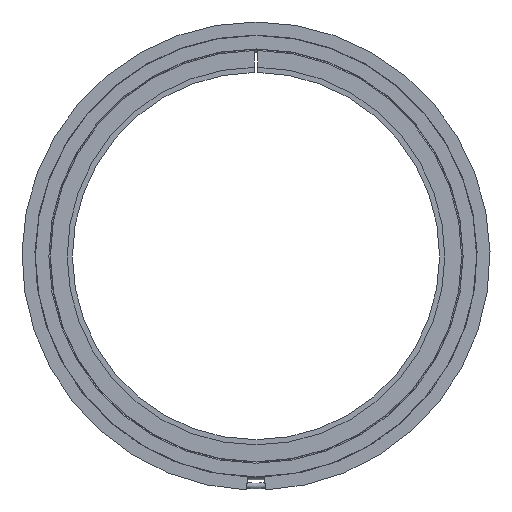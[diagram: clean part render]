
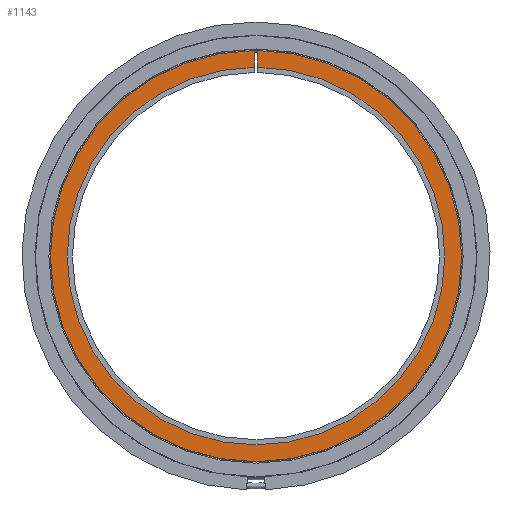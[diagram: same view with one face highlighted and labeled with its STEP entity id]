
A CAD part, left-side view. The second image highlights one B-rep face of the part: STEP entity #1143.
In plain terms, the highlighted planar face has unit normal (-1, 0, 0).
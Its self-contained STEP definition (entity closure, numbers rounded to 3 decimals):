
#259=DIRECTION('',(0.,0.,-1.));
#260=VECTOR('',#259,4.544);
#261=CARTESIAN_POINT('',(2.05,0.5,55.442));
#262=LINE('',#261,#260);
#361=DIRECTION('',(0.,0.,1.));
#362=VECTOR('',#361,4.544);
#363=CARTESIAN_POINT('',(2.05,-0.5,50.898));
#364=LINE('',#363,#362);
#399=CARTESIAN_POINT('',(2.05,0.,0.));
#400=DIRECTION('',(-1.,0.,0.));
#401=DIRECTION('',(0.,0.009,1.));
#402=AXIS2_PLACEMENT_3D('',#399,#400,#401);
#404=CARTESIAN_POINT('',(2.05,0.,0.));
#405=DIRECTION('',(1.,0.,0.));
#406=DIRECTION('',(0.,0.,-1.));
#407=AXIS2_PLACEMENT_3D('',#404,#405,#406);
#409=CARTESIAN_POINT('',(2.05,0.,0.));
#410=DIRECTION('',(1.,0.,0.));
#411=DIRECTION('',(0.,-0.01,1.));
#412=AXIS2_PLACEMENT_3D('',#409,#410,#411);
#414=CARTESIAN_POINT('',(2.05,0.,0.));
#415=DIRECTION('',(-1.,0.,0.));
#416=DIRECTION('',(0.,0.,-1.));
#417=AXIS2_PLACEMENT_3D('',#414,#415,#416);
#624=CARTESIAN_POINT('',(2.05,0.,-50.9));
#625=CARTESIAN_POINT('',(2.05,0.5,50.898));
#626=VERTEX_POINT('',#624);
#627=VERTEX_POINT('',#625);
#628=CARTESIAN_POINT('',(2.05,-0.5,50.898));
#629=VERTEX_POINT('',#628);
#630=CARTESIAN_POINT('',(2.05,0.5,55.442));
#631=CARTESIAN_POINT('',(2.05,0.,-55.444));
#632=VERTEX_POINT('',#630);
#633=VERTEX_POINT('',#631);
#634=CARTESIAN_POINT('',(2.05,-0.5,55.442));
#635=VERTEX_POINT('',#634);
#1128=CARTESIAN_POINT('',(2.05,50.9,0.));
#1129=DIRECTION('',(-1.,0.,0.));
#1130=DIRECTION('',(0.,0.,1.));
#1131=AXIS2_PLACEMENT_3D('',#1128,#1129,#1130);
#1132=PLANE('',#1131);
#1133=ORIENTED_EDGE('',*,*,#982,.F.);
#1134=ORIENTED_EDGE('',*,*,#1025,.T.);
#1136=ORIENTED_EDGE('',*,*,#1135,.F.);
#1138=ORIENTED_EDGE('',*,*,#1137,.F.);
#1139=ORIENTED_EDGE('',*,*,#1102,.T.);
#1140=ORIENTED_EDGE('',*,*,#984,.F.);
#1141=EDGE_LOOP('',(#1133,#1134,#1136,#1138,#1139,#1140));
#1142=FACE_OUTER_BOUND('',#1141,.F.);
#403=CIRCLE('',#402,55.444);
#408=CIRCLE('',#407,50.9);
#413=CIRCLE('',#412,50.9);
#418=CIRCLE('',#417,55.444);
#982=EDGE_CURVE('',#632,#633,#403,.T.);
#984=EDGE_CURVE('',#633,#635,#418,.T.);
#1025=EDGE_CURVE('',#632,#627,#262,.T.);
#1102=EDGE_CURVE('',#629,#635,#364,.T.);
#1135=EDGE_CURVE('',#626,#627,#408,.T.);
#1137=EDGE_CURVE('',#629,#626,#413,.T.);
#1143=ADVANCED_FACE('',(#1142),#1132,.T.);
